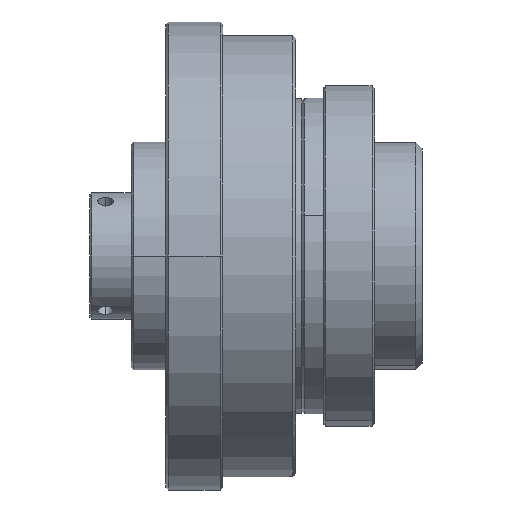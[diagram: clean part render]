
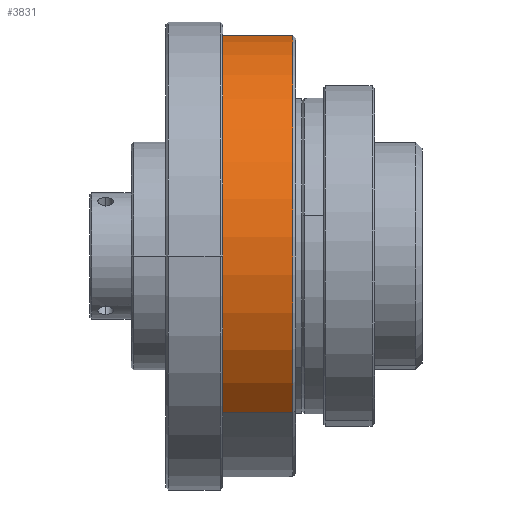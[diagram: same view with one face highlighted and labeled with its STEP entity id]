
A CAD part, front view. The second image highlights one B-rep face of the part: STEP entity #3831.
In plain terms, the highlighted cylindrical face has radius 35 mm (diameter 70 mm), a partial arc.
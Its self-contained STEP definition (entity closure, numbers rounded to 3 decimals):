
#107 = ORIENTED_EDGE ( 'NONE', *, *, #6096, .T. ) ;
#251 = VERTEX_POINT ( 'NONE', #5821 ) ;
#474 = EDGE_LOOP ( 'NONE', ( #15682, #107, #13120, #15629 ) ) ;
#1473 = EDGE_CURVE ( 'NONE', #17442, #6710, #7455, .T. ) ;
#1562 = DIRECTION ( 'NONE',  ( -1., 0., 0. ) ) ;
#1579 = DIRECTION ( 'NONE',  ( -1., 0., 0. ) ) ;
#1608 = CARTESIAN_POINT ( 'NONE',  ( -33.7, 0., 0. ) ) ;
#1664 = EDGE_CURVE ( 'NONE', #17442, #9231, #16029, .T. ) ;
#3029 = DIRECTION ( 'NONE',  ( 0., 0.707, 0.707 ) ) ;
#3069 = AXIS2_PLACEMENT_3D ( 'NONE', #12338, #9648, #5338 ) ;
#3831 = ADVANCED_FACE ( 'NONE', ( #6602 ), #4489, .T. ) ;
#4262 = CARTESIAN_POINT ( 'NONE',  ( -20.4, -24.749, -24.749 ) ) ;
#4489 = CYLINDRICAL_SURFACE ( 'NONE', #3069, 35. ) ;
#4622 = CARTESIAN_POINT ( 'NONE',  ( -90.414, 24.749, 24.749 ) ) ;
#5203 = EDGE_CURVE ( 'NONE', #251, #9231, #10146, .T. ) ;
#5338 = DIRECTION ( 'NONE',  ( 0., -0.707, -0.707 ) ) ;
#5691 = AXIS2_PLACEMENT_3D ( 'NONE', #1608, #11430, #3029 ) ;
#5821 = CARTESIAN_POINT ( 'NONE',  ( -33.7, 24.749, 24.749 ) ) ;
#6096 = EDGE_CURVE ( 'NONE', #6710, #251, #12001, .T. ) ;
#6600 = CARTESIAN_POINT ( 'NONE',  ( -20.4, 24.749, 24.749 ) ) ;
#6602 = FACE_OUTER_BOUND ( 'NONE', #474, .T. ) ;
#6710 = VERTEX_POINT ( 'NONE', #6600 ) ;
#7009 = VECTOR ( 'NONE', #17264, 1000. ) ;
#7455 = CIRCLE ( 'NONE', #8544, 35. ) ;
#8544 = AXIS2_PLACEMENT_3D ( 'NONE', #10014, #1562, #11381 ) ;
#9231 = VERTEX_POINT ( 'NONE', #16133 ) ;
#9648 = DIRECTION ( 'NONE',  ( -1., 0., 0. ) ) ;
#10014 = CARTESIAN_POINT ( 'NONE',  ( -20.4, 0., 0. ) ) ;
#10146 = CIRCLE ( 'NONE', #5691, 35. ) ;
#11381 = DIRECTION ( 'NONE',  ( 0., -0.707, -0.707 ) ) ;
#11430 = DIRECTION ( 'NONE',  ( 1., 0., 0. ) ) ;
#12001 = LINE ( 'NONE', #4622, #7009 ) ;
#12338 = CARTESIAN_POINT ( 'NONE',  ( -90.414, 0., 0. ) ) ;
#12791 = CARTESIAN_POINT ( 'NONE',  ( -90.414, -24.749, -24.749 ) ) ;
#13120 = ORIENTED_EDGE ( 'NONE', *, *, #5203, .T. ) ;
#15348 = VECTOR ( 'NONE', #1579, 1000. ) ;
#15629 = ORIENTED_EDGE ( 'NONE', *, *, #1664, .F. ) ;
#15682 = ORIENTED_EDGE ( 'NONE', *, *, #1473, .T. ) ;
#16029 = LINE ( 'NONE', #12791, #15348 ) ;
#16133 = CARTESIAN_POINT ( 'NONE',  ( -33.7, -24.749, -24.749 ) ) ;
#17264 = DIRECTION ( 'NONE',  ( -1., 0., 0. ) ) ;
#17442 = VERTEX_POINT ( 'NONE', #4262 ) ;
